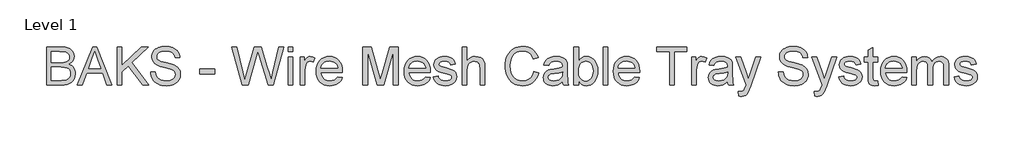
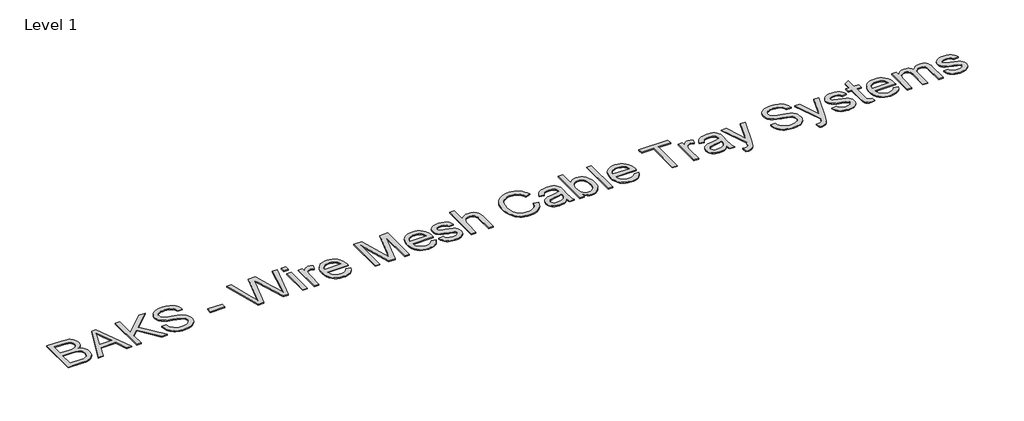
# One storey, part 32 of 32: 1 proxy.
"""IFC4 building model written with IfcOpenShell, lengths in millimetres."""

from ifc_helpers import new_model, si_unit, origin, origin_with_axes, place, context, project, spatial, polyline, outline, extrude, element, save

model = new_model("IFC4")

# Units and contexts
model_context = context("Model", 3, world=origin())
ifc_project = project(units=[si_unit("LENGTHUNIT", "METRE", prefix="MILLI")], contexts=[model_context])

# Site, building, storey
site = spatial("IfcSite", under=ifc_project)
building = spatial("IfcBuilding", under=site)
storey = spatial("IfcBuildingStorey", under=building, Name="Level 1", Elevation=0.0)

# Proxy
placement = place(None, origin())
element("IfcBuildingElementProxy", 1, Name="600mm Arial", ObjectType="600mm Arial", at=placement, inside=storey, context=model_context, shape_type="SweptSolid", body=[
    extrude(outline(polyline([(1866.9285506, 74450.7318965), (1866.9285506, 75053.4697574), (2096.928374, 75053.4697574), (2160.1856831, 75049.0367793), (2209.5738409, 75035.7378452), (2229.6510008, 75025.6808712), (2247.4288982, 75013.2418612), (2262.9075332, 74998.4208153), (2276.0869057, 74981.2177335), (2294.1315175, 74943.5466172), (2300.1463882, 74904.1096673), (2295.0880107, 74867.8181085), (2279.9128784, 74833.6970535), (2254.5106267, 74803.8434295), (2218.7708908, 74780.3541642), (2241.5105967, 74770.6604736), (2261.4635964, 74758.0605152), (2278.62989, 74742.5542891), (2293.0094775, 74724.1417953), (2304.3724326, 74703.3840537), (2312.4888291, 74680.8420845), (2317.358667, 74656.5158875), (2318.9819463, 74630.4054629), (2314.5489683, 74588.374945), (2301.2500341, 74549.3978476), (2281.4028005, 74516.2516798), (2257.3249239, 74491.7139507), (2227.839182, 74473.9452504), (2191.7683524, 74461.1061687), (2147.9352127, 74453.3254645), (2095.1625404, 74450.7318965), (1866.9285506, 74450.7318965)]), holes=[polyline([(1942.2707832, 74808.6075014), (2079.8586494, 74808.6075014), (2127.9776144, 74810.2261822), (2160.2040772, 74815.0822245), (2188.3286557, 74826.247443), (2208.5437714, 74842.9676797), (2220.7390595, 74864.9854171), (2224.8041555, 74892.0431379), (2221.014971, 74918.3099123), (2209.6474173, 74941.1921724), (2191.2165294, 74959.0528433), (2166.2373419, 74970.2548501), (2127.904038, 74976.1593561), (2069.4108008, 74978.1275248), (1942.2707832, 74978.1275248), (1942.2707832, 74808.6075014)]), polyline([(1942.2707832, 74526.0741291), (2096.7812212, 74526.0741291), (2152.6992845, 74529.017185), (2178.6533592, 74535.5470905), (2200.0089091, 74545.424722), (2217.3729392, 74559.5697847), (2231.3524551, 74578.9019836), (2240.567899, 74602.5567959), (2243.6397137, 74629.6696989), (2240.0344701, 74661.1603977), (2229.2187395, 74688.2365126), (2210.327999, 74709.4081214), (2182.4977261, 74723.1853021), (2143.0791703, 74730.7452771), (2089.4235813, 74733.2652688), (1942.2707832, 74733.2652688), (1942.2707832, 74526.0741291)])]), origin_with_axes(), (0.0, 0.0, 1.0), 15.0),
    extrude(outline(polyline([(2352.3856315, 74450.7318965), (2592.9804563, 75053.4697574), (2657.1390763, 75053.4697574), (2897.7339011, 74450.7318965), (2818.1242374, 74450.7318965), (2749.1095751, 74639.087478), (2500.8628047, 74639.087478), (2431.9952952, 74450.7318965), (2352.3856315, 74450.7318965)]), holes=[polyline([(2528.5275308, 74714.4297106), (2721.5920018, 74714.4297106), (2667.2926193, 74862.6125783), (2625.0597663, 74978.1275248), (2587.5358028, 74875.5620245), (2528.5275308, 74714.4297106)])]), origin_with_axes(), (0.0, 0.0, 1.0), 15.0),
    extrude(outline(polyline([(2978.2264817, 74450.7318965), (2978.2264817, 75053.4697574), (3053.5687143, 75053.4697574), (3053.5687143, 74758.4283972), (3362.5895902, 75053.4697574), (3467.9509936, 75053.4697574), (3208.5206106, 74805.6644454), (3477.3687727, 74450.7318965), (3385.2511211, 74450.7318965), (3155.1041449, 74754.7495773), (3053.5687143, 74657.9230362), (3053.5687143, 74450.7318965), (2978.2264817, 74450.7318965)])), origin_with_axes(), (0.0, 0.0, 1.0), 15.0),
    extrude(outline(polyline([(3505.62211, 74657.9230362), (3580.9643426, 74657.9230362), (3589.6095695, 74616.1132474), (3605.2445542, 74582.5072271), (3629.6351305, 74555.8357825), (3664.5471319, 74534.8297206), (3707.2214433, 74521.1996926), (3754.8989499, 74516.65635), (3796.8742855, 74520.0960467), (3833.6256969, 74530.4151366), (3863.4057444, 74546.7490972), (3884.4669886, 74568.2334057), (3896.9933705, 74592.8998935), (3901.1688312, 74618.7803919), (3898.0418342, 74643.9987026), (3888.6608433, 74665.7957109), (3869.604556, 74684.3921457), (3837.4516696, 74700.0087364), (3727.7492586, 74728.7771084), (3655.7363581, 74747.8150017), (3609.6591382, 74765.9331899), (3572.1535688, 74791.2802594), (3545.5740946, 74821.998406), (3529.7367747, 74857.4254421), (3524.4576681, 74896.8991802), (3526.0901445, 74919.3353834), (3530.9875735, 74941.0266255), (3539.1499553, 74961.9729066), (3550.5772898, 74982.1742267), (3565.1408182, 75000.8074498), (3582.711782, 75017.0494398), (3603.2901811, 75030.900197), (3626.8760156, 75042.3597211), (3679.8878111, 75057.7555826), (3738.5649893, 75062.8875364), (3802.1349981, 75057.5164593), (3857.7587557, 75041.4032279), (3882.0941497, 75029.4010778), (3903.4496995, 75014.8789361), (3921.8254052, 74997.8368026), (3937.2212667, 74978.2746776), (3949.5177224, 74956.7627779), (3958.5952106, 74933.8713207), (3964.4537314, 74909.6003061), (3967.0932847, 74883.949734), (3891.7510521, 74883.949734), (3886.7110688, 74907.9908224), (3877.9186891, 74928.9049138), (3865.373913, 74946.6920083), (3849.0767406, 74961.3521058), (3828.7236693, 74972.8116299), (3804.0111962, 74980.9970043), (3774.9393216, 74985.908229), (3741.5080453, 74987.5453038), (3707.0099112, 74985.9266231), (3677.5333663, 74981.0705807), (3653.0784107, 74972.9771768), (3633.6450443, 74961.6464114), (3618.837794, 74948.0255805), (3608.2611866, 74933.0619803), (3601.9152222, 74916.7556109), (3599.7999007, 74899.1064722), (3601.2990198, 74883.9221428), (3605.7963772, 74870.1541592), (3613.2919729, 74857.8025212), (3623.7858068, 74846.8672289), (3640.3037084, 74836.5113507), (3666.3129654, 74826.045108), (3746.805546, 74804.7815286), (3829.8733005, 74784.5848071), (3880.125981, 74766.9632595), (3923.076204, 74739.6296273), (3939.6814775, 74723.5623811), (3953.0401925, 74705.8948483), (3963.3086987, 74686.7189993), (3970.643346, 74666.1268046), (3976.5110638, 74620.6933782), (3974.8234051, 74597.1259379), (3969.7604292, 74574.2482764), (3961.3221359, 74552.0603935), (3949.5085253, 74530.5622894), (3934.5265311, 74510.5862971), (3916.5830868, 74492.9647495), (3895.6781924, 74477.6976467), (3871.811848, 74464.7849887), (3845.6784307, 74454.5164825), (3817.972318, 74447.1818352), (3757.8420058, 74441.3141174), (3719.3017683, 74442.89601), (3684.0264835, 74447.6416877), (3652.0161514, 74455.5511506), (3623.270772, 74466.6243987), (3597.6156014, 74480.879826), (3574.8758955, 74498.3358266), (3555.0516545, 74518.9924007), (3538.1428783, 74542.8495481), (3524.5220475, 74569.1347166), (3514.5616424, 74597.0753542), (3508.2616633, 74626.6714607), (3505.62211, 74657.9230362)])), origin_with_axes(), (0.0, 0.0, 1.0), 15.0),
    extrude(outline(polyline([(4277.8799942, 74629.6696989), (4277.8799942, 74705.0119315), (4513.3244711, 74705.0119315), (4513.3244711, 74629.6696989), (4277.8799942, 74629.6696989)])), origin_with_axes(), (0.0, 0.0, 1.0), 15.0),
    extrude(outline(polyline([(4950.8097398, 74450.7318965), (4786.4400644, 75053.4697574), (4864.1367417, 75053.4697574), (4959.4917549, 74657.334425), (4988.9223145, 74535.0504498), (5020.4130133, 74643.2077563), (5139.9010853, 75053.4697574), (5251.8843647, 75053.4697574), (5338.7045155, 74756.0739525), (5375.8973852, 74645.7093539), (5403.3045939, 74535.0504498), (5431.8522367, 74653.8027578), (5528.0901666, 75053.4697574), (5605.786844, 75053.4697574), (5441.2700158, 74450.7318965), (5360.7774352, 74450.7318965), (5216.2733875, 74915.7347384), (5196.1134542, 74980.6291223), (5173.4519233, 74902.4909865), (5041.750169, 74450.7318965), (4950.8097398, 74450.7318965)])), origin_with_axes(), (0.0, 0.0, 1.0), 15.0),
    extrude(outline(polyline([(5671.7112976, 74978.1275248), (5671.7112976, 75053.4697574), (5747.0535302, 75053.4697574), (5747.0535302, 74978.1275248), (5671.7112976, 74978.1275248)])), origin_with_axes(), (0.0, 0.0, 1.0), 15.0),
    extrude(outline(polyline([(5671.7112976, 74450.7318965), (5671.7112976, 74893.3675131), (5747.0535302, 74893.3675131), (5747.0535302, 74450.7318965), (5671.7112976, 74450.7318965)])), origin_with_axes(), (0.0, 0.0, 1.0), 15.0),
    extrude(outline(polyline([(5860.0668791, 74450.7318965), (5860.0668791, 74893.3675131), (5925.9913326, 74893.3675131), (5925.9913326, 74827.8845179), (5950.3451207, 74865.8499398), (5972.7859224, 74888.2171651), (5995.3003005, 74899.1432604), (6019.8748178, 74902.7852921), (6057.3987813, 74896.9727566), (6095.511356, 74879.5351501), (6070.3482275, 74811.9920157), (6043.8607239, 74823.5802986), (6017.3732202, 74827.4430595), (5994.8772362, 74823.7274514), (5974.7724852, 74812.5806269), (5958.5304951, 74794.8487148), (5947.6227939, 74771.3778435), (5938.4625323, 74729.2921432), (5935.4091117, 74683.3804702), (5935.4091117, 74450.7318965), (5860.0668791, 74450.7318965)])), origin_with_axes(), (0.0, 0.0, 1.0), 15.0),
    extrude(outline(polyline([(6452.5040441, 74582.5808035), (6526.3747487, 74573.1630245), (6515.0485818, 74543.576115), (6499.7584864, 74517.5024786), (6480.5044625, 74494.9421152), (6457.2865101, 74475.8950249), (6430.3437524, 74460.7658779), (6399.9153129, 74449.9593443), (6366.0011915, 74443.4754241), (6328.6013881, 74441.3141174), (6281.8527836, 74445.0435211), (6240.1993447, 74456.2317323), (6203.6410714, 74474.8787509), (6172.1779638, 74500.984577), (6146.8768796, 74533.8226436), (6128.8046766, 74572.6663838), (6117.9613548, 74617.5157975), (6114.3469141, 74668.3708848), (6117.998143, 74720.950419), (6128.9518294, 74767.2943533), (6147.2079734, 74807.4026878), (6172.766575, 74841.2754226), (6204.1469092, 74868.1859905), (6239.8682509, 74887.4078247), (6279.9306002, 74898.9409253), (6324.333957, 74902.7852921), (6367.3071726, 74898.9501223), (6406.1693068, 74887.4446129), (6440.9203598, 74868.2687639), (6471.5603315, 74841.4225754), (6496.5717086, 74807.623417), (6514.436978, 74767.5886589), (6525.1561396, 74721.318301), (6528.7291935, 74668.8123432), (6528.2877351, 74648.5052571), (6189.6891468, 74648.5052571), (6194.0531469, 74618.440101), (6202.7305635, 74592.1089472), (6215.7213964, 74569.5117957), (6233.0256458, 74550.6486464), (6253.6868183, 74535.7770167), (6276.7484209, 74525.1544241), (6302.2104535, 74518.7808685), (6330.0729161, 74516.65635), (6370.1720536, 74520.5926874), (6403.9436208, 74532.4016994), (6431.3876176, 74552.8191501), (6452.5040441, 74582.5808035)]), holes=[polyline([(6189.6891468, 74723.8474897), (6453.3869609, 74723.8474897), (6443.1966296, 74763.6523216), (6434.4318411, 74779.3057005), (6423.2206373, 74792.126388), (6402.6744279, 74807.5774318), (6379.2955271, 74818.6138916), (6353.0839349, 74825.2357676), (6324.0396514, 74827.4430595), (6297.5475492, 74825.6818245), (6273.253542, 74820.3981193), (6251.1576296, 74811.5919441), (6231.2598122, 74799.2632987), (6214.5625682, 74783.9824003), (6202.0683759, 74766.319466), (6193.7772354, 74746.2744958), (6189.6891468, 74723.8474897)])]), origin_with_axes(), (0.0, 0.0, 1.0), 15.0),
    extrude(outline(polyline([(6848.9336821, 74450.7318965), (6848.9336821, 75053.4697574), (6978.5752972, 75053.4697574), (7101.889342, 74628.6396293), (7126.7581649, 74539.9064921), (7153.6871269, 74635.9972692), (7274.9410325, 75053.4697574), (7404.5826476, 75053.4697574), (7404.5826476, 74450.7318965), (7329.240415, 74450.7318965), (7329.240415, 74978.1275248), (7177.8201858, 74450.7318965), (7075.6961439, 74450.7318965), (6924.2759147, 74978.1275248), (6924.2759147, 74450.7318965), (6848.9336821, 74450.7318965)])), origin_with_axes(), (0.0, 0.0, 1.0), 15.0),
    extrude(outline(polyline([(7836.9175684, 74582.5808035), (7910.788273, 74573.1630245), (7899.4621061, 74543.576115), (7884.1720106, 74517.5024786), (7864.9179867, 74494.9421152), (7841.7000343, 74475.8950249), (7814.7572767, 74460.7658779), (7784.3288372, 74449.9593443), (7750.4147157, 74443.4754241), (7713.0149124, 74441.3141174), (7666.2663079, 74445.0435211), (7624.6128689, 74456.2317323), (7588.0545957, 74474.8787509), (7556.591488, 74500.984577), (7531.2904038, 74533.8226436), (7513.2182008, 74572.6663838), (7502.374879, 74617.5157975), (7498.7604384, 74668.3708848), (7502.4116672, 74720.950419), (7513.3653536, 74767.2943533), (7531.6214976, 74807.4026878), (7557.1800992, 74841.2754226), (7588.5604334, 74868.1859905), (7624.2817752, 74887.4078247), (7664.3441244, 74898.9409253), (7708.7474812, 74902.7852921), (7751.7206968, 74898.9501223), (7790.5828311, 74887.4446129), (7825.333884, 74868.2687639), (7855.9738557, 74841.4225754), (7880.9852329, 74807.623417), (7898.8505023, 74767.5886589), (7909.5696639, 74721.318301), (7913.1427178, 74668.8123432), (7912.7012594, 74648.5052571), (7574.102671, 74648.5052571), (7578.4666712, 74618.440101), (7587.1440877, 74592.1089472), (7600.1349207, 74569.5117957), (7617.43917, 74550.6486464), (7638.1003426, 74535.7770167), (7661.1619452, 74525.1544241), (7686.6239778, 74518.7808685), (7714.4864404, 74516.65635), (7754.5855778, 74520.5926874), (7788.357145, 74532.4016994), (7815.8011418, 74552.8191501), (7836.9175684, 74582.5808035)]), holes=[polyline([(7574.102671, 74723.8474897), (7837.8004852, 74723.8474897), (7827.6101539, 74763.6523216), (7818.8453654, 74779.3057005), (7807.6341615, 74792.126388), (7787.0879521, 74807.5774318), (7763.7090513, 74818.6138916), (7737.4974592, 74825.2357676), (7708.4531756, 74827.4430595), (7681.9610735, 74825.6818245), (7657.6670662, 74820.3981193), (7635.5711539, 74811.5919441), (7615.6733365, 74799.2632987), (7598.9760924, 74783.9824003), (7586.4819001, 74766.319466), (7578.1907597, 74746.2744958), (7574.102671, 74723.8474897)])]), origin_with_axes(), (0.0, 0.0, 1.0), 15.0),
    extrude(outline(polyline([(7960.2316131, 74582.5808035), (8035.5738458, 74591.9985826), (8040.1263855, 74574.8184934), (8047.4564342, 74559.7721198), (8057.563992, 74546.8594618), (8070.4490589, 74536.0805194), (8086.148423, 74527.5824453), (8104.6988727, 74521.5123923), (8150.3530283, 74516.65635), (8195.4553609, 74521.1077221), (8212.9849379, 74526.6719373), (8227.1667888, 74534.4618386), (8245.9287706, 74553.8124315), (8250.619266, 74564.6465563), (8252.1827645, 74576.2532332), (8250.610069, 74586.4251704), (8245.8919824, 74595.4566734), (8227.0196361, 74610.0983768), (8198.803087, 74619.6633087), (8149.4701115, 74631.5826853), (8080.7129666, 74651.4667071), (8036.0153042, 74668.4444612), (8007.3021144, 74686.9673197), (7986.4983876, 74711.4866547), (7973.8616411, 74740.4389677), (7969.6493922, 74772.2607603), (7973.0339066, 74801.4521966), (7983.1874496, 74828.3995527), (7999.1903164, 74852.0359709), (8020.122802, 74871.2945934), (8040.9265288, 74883.4163051), (8068.0210377, 74893.5882423), (8099.3461896, 74900.4860297), (8132.8418453, 74902.7852921), (8181.8805152, 74899.0880781), (8224.5180385, 74887.9964359), (8258.8046404, 74870.5956176), (8282.7905465, 74847.9708749), (8298.6830487, 74818.4483448), (8308.689439, 74780.3541642), (8233.3472064, 74770.9363851), (8223.8374568, 74794.6463797), (8205.0202927, 74812.5070505), (8176.7117732, 74823.7090573), (8138.7279572, 74827.4430595), (8095.4650346, 74823.8746042), (8066.6230862, 74813.1692381), (8050.3994902, 74797.7181943), (8044.9916248, 74779.9127058), (8047.235705, 74768.3244229), (8053.9679455, 74757.9869388), (8065.482652, 74748.7531008), (8082.07413, 74741.3586727), (8146.9685139, 74725.3190177), (8257.5538417, 74689.8551933), (8286.7636721, 74672.8958334), (8308.9101682, 74649.6824795), (8322.8712899, 74620.1415553), (8327.5249971, 74584.1994843), (8322.0619495, 74547.0434028), (8305.6728066, 74512.0946133), (8278.9829679, 74482.0938366), (8242.6178326, 74459.7817936), (8198.6927224, 74445.9310364), (8149.3229587, 74441.3141174), (8108.7731658, 74443.5398035), (8073.3553267, 74450.2168617), (8043.0694414, 74461.345292), (8017.91551, 74476.9250945), (7997.3693006, 74496.8826928), (7980.9065813, 74521.1445103), (7968.5273521, 74549.7105473), (7960.2316131, 74582.5808035)])), origin_with_axes(), (0.0, 0.0, 1.0), 15.0),
    extrude(outline(polyline([(8412.2850088, 74450.7318965), (8412.2850088, 75053.4697574), (8487.6272414, 75053.4697574), (8487.6272414, 74831.8576435), (8515.3011645, 74862.8884898), (8546.3779961, 74885.05338), (8580.8577361, 74898.3523141), (8618.7403845, 74902.7852921), (8664.2473873, 74897.9476439), (8703.3532434, 74883.4346992), (8734.1449664, 74860.3868922), (8754.7095699, 74829.9446571), (8766.2978528, 74788.1164742), (8770.1606137, 74730.910824), (8770.1606137, 74450.7318965), (8694.8183811, 74450.7318965), (8694.8183811, 74723.1117257), (8693.319262, 74748.5507657), (8688.8219046, 74770.2741975), (8681.3263089, 74788.2820211), (8670.832475, 74802.5742367), (8657.5887232, 74813.4543467), (8641.8433738, 74821.2258538), (8623.5964269, 74825.8887581), (8602.8478823, 74827.4430595), (8571.0076956, 74823.2492048), (8541.1172835, 74810.6676406), (8516.3588253, 74790.9123774), (8499.9145001, 74765.1974259), (8490.6990561, 74731.0211886), (8487.6272414, 74685.8820678), (8487.6272414, 74450.7318965), (8412.2850088, 74450.7318965)])), origin_with_axes(), (0.0, 0.0, 1.0), 15.0),
    extrude(outline(polyline([(9542.418498, 74664.9863705), (9617.7607306, 74645.5622011), (9602.8523128, 74598.7078305), (9582.9958821, 74557.767163), (9558.1914385, 74522.7401985), (9528.4389822, 74493.6269371), (9494.4098976, 74470.7400785), (9456.7755695, 74454.3923223), (9415.5359979, 74444.5836686), (9370.6911827, 74441.3141174), (9324.74732, 74443.7881238), (9283.3008147, 74451.2101431), (9246.3516668, 74463.5801752), (9213.8998763, 74480.8982201), (9185.4993863, 74502.9067604), (9160.7041398, 74529.3482788), (9139.5141369, 74560.2227753), (9121.9293775, 74595.5302498), (9108.1200071, 74633.743992), (9098.2561711, 74673.3372918), (9092.3378695, 74714.310149), (9090.3651023, 74756.6625637), (9092.5953869, 74802.1051871), (9099.2862407, 74844.5495723), (9110.4376637, 74883.9957192), (9126.0496559, 74920.4436279), (9145.7727293, 74953.2908916), (9169.2573962, 74981.9351034), (9196.5036565, 75006.3762635), (9227.5115101, 75026.6143717), (9261.227895, 75042.4838813), (9296.5997488, 75053.8192453), (9333.6270716, 75060.6204637), (9372.3098634, 75062.8875364), (9415.4026406, 75059.9536775), (9454.9177655, 75051.1521008), (9490.8552379, 75036.4828062), (9523.2150579, 75015.9457939), (9551.4637966, 74990.0836896), (9575.0680251, 74959.4391194), (9594.0277434, 74924.0120833), (9608.3429515, 74883.8025812), (9533.0007189, 74865.8499398), (9521.1365246, 74895.478236), (9506.8810973, 74920.7931158), (9490.234437, 74941.7945792), (9471.1965437, 74958.4826262), (9449.6570529, 74971.1975477), (9425.5055999, 74980.2796344), (9398.7421848, 74985.7288865), (9369.3668075, 74987.5453038), (9335.5676492, 74985.5311499), (9304.6563645, 74979.4886881), (9276.6329535, 74969.4179185), (9251.4974162, 74955.3188411), (9229.5670508, 74937.8260522), (9211.1591554, 74917.5741484), (9196.2737302, 74894.5631296), (9184.9107751, 74868.7929958), (9170.508195, 74813.6474847), (9165.7073349, 74756.8097165), (9171.3911118, 74687.206443), (9178.4958328, 74655.9364734), (9188.4424422, 74627.0209486), (9201.3918885, 74601.0346841), (9217.5051199, 74578.5524957), (9236.7821364, 74559.5743833), (9259.2229381, 74544.1003468), (9283.7376746, 74532.0935982), (9309.2364954, 74523.5173492), (9335.7194005, 74518.3715998), (9363.18639, 74516.65635), (9395.9416831, 74518.9924007), (9426.075817, 74526.0005527), (9453.5887917, 74537.680806), (9478.4806072, 74554.0331607), (9500.1626523, 74574.9840403), (9518.0463158, 74600.4598685), (9532.1315977, 74630.4606452), (9542.418498, 74664.9863705)])), origin_with_axes(), (0.0, 0.0, 1.0), 15.0),
    extrude(outline(polyline([(9994.4718937, 74507.2385709), (9958.4746405, 74476.3732715), (9921.4105294, 74456.17655), (9882.433432, 74445.0297255), (9840.6972197, 74441.3141174), (9807.1509803, 74443.5490005), (9777.7342162, 74450.2536499), (9752.4469276, 74461.4280655), (9731.2891143, 74477.0722473), (9714.5826732, 74496.192914), (9702.649501, 74517.7967842), (9695.4895977, 74541.8838578), (9693.1029632, 74568.4541349), (9696.7082068, 74599.6873163), (9707.5239374, 74628.0510181), (9724.2073859, 74652.3312298), (9745.4157829, 74671.3139408), (9770.3397881, 74685.6613386), (9798.1700611, 74696.0356109), (9863.3587506, 74707.3663763), (9940.3932404, 74719.285753), (9994.0304353, 74733.2652688), (9994.4718937, 74750.0406877), (9989.2847575, 74783.6651021), (9982.8008374, 74796.1179076), (9973.7233492, 74805.6644454), (9958.0331821, 74815.1925891), (9938.9217124, 74821.998406), (9890.4348654, 74827.4430595), (9845.553262, 74823.8194219), (9814.209716, 74812.9485089), (9792.8357721, 74792.8437579), (9777.8629749, 74761.518606), (9702.5207423, 74770.9363851), (9715.5989472, 74812.1391685), (9735.1150871, 74844.5127841), (9762.8901777, 74869.2712424), (9800.745235, 74887.6285539), (9847.0431841, 74898.9961076), (9900.1469501, 74902.7852921), (9951.0802123, 74899.437566), (9991.4552613, 74889.3943875), (10021.8974964, 74874.2928316), (10043.032317, 74855.7699732), (10057.0486211, 74832.869319), (10066.1353063, 74804.6343758), (10069.8141263, 74738.7099223), (10069.8141263, 74644.9735899), (10073.640099, 74514.081176), (10079.3054818, 74481.7259546), (10088.6496844, 74450.7318965), (10013.3074518, 74450.7318965), (10001.2409224, 74476.9250945), (9994.4718937, 74507.2385709)]), holes=[polyline([(9994.4718937, 74657.9230362), (9943.8513311, 74645.3782601), (9872.9236825, 74634.8200469), (9808.1028749, 74622.6063646), (9791.2354854, 74614.2554433), (9778.7458917, 74602.7407369), (9771.0203698, 74588.9451621), (9768.4451958, 74573.7516357), (9774.0553963, 74551.3476222), (9790.8859975, 74532.9903106), (9818.5691177, 74520.7398402), (9856.7368747, 74516.65635), (9897.2038942, 74521.1629044), (9932.9620241, 74534.6825678), (9961.9511253, 74554.6033778), (9982.1110586, 74578.3133724), (9991.0505911, 74602.7407369), (9994.0304353, 74636.5858804), (9994.4718937, 74657.9230362)])]), origin_with_axes(), (0.0, 0.0, 1.0), 15.0),
    extrude(outline(polyline([(10248.7519287, 74450.7318965), (10173.4096961, 74450.7318965), (10173.4096961, 75053.4697574), (10248.7519287, 75053.4697574), (10248.7519287, 74829.9446571), (10273.5287811, 74861.8124349), (10301.5062069, 74884.5751334), (10332.6842059, 74898.2327525), (10367.0627784, 74902.7852921), (10405.8743289, 74898.6834079), (10442.5521638, 74886.3777552), (10474.9993558, 74866.6408861), (10501.1189774, 74840.245353), (10521.5916105, 74807.4486731), (10537.0978366, 74768.5083639), (10546.8651035, 74725.0431062), (10550.1208592, 74678.6715807), (10546.7501404, 74625.1631445), (10536.6379841, 74578.0926432), (10519.7843902, 74537.4600768), (10496.1893587, 74503.2654454), (10467.8670436, 74476.1617394), (10436.8315988, 74456.8019494), (10403.0830242, 74445.1860754), (10366.62132, 74441.3141174), (10331.1115104, 74446.3081155), (10299.6300087, 74461.2901097), (10272.1768148, 74486.2601002), (10248.7519287, 74521.2180867), (10248.7519287, 74450.7318965)]), holes=[polyline([(10248.7519287, 74675.1399135), (10253.9022767, 74612.3056688), (10260.3402116, 74588.5037037), (10269.3533205, 74569.7785101), (10287.6094645, 74546.5375651), (10308.8270586, 74529.93689), (10333.0061027, 74519.976485), (10360.1465969, 74516.65635), (10382.6793691, 74519.1027653), (10403.6302487, 74526.4420111), (10422.9992358, 74538.6740874), (10440.7863302, 74555.7989943), (10455.6579599, 74577.7707465), (10466.2805525, 74604.5433587), (10472.6541081, 74636.1168309), (10474.7786266, 74672.4911632), (10472.74148, 74709.5552742), (10466.6300404, 74741.4322491), (10456.4443076, 74768.1220878), (10442.1842818, 74789.6247904), (10425.0363823, 74806.1702832), (10406.1870286, 74817.9884923), (10385.6362206, 74825.0794177), (10363.3839584, 74827.4430595), (10340.8511862, 74824.9966443), (10319.9003066, 74817.6573985), (10300.5313196, 74805.4253221), (10282.7442251, 74788.3004152), (10267.8725954, 74766.5493923), (10257.2500028, 74740.4389677), (10250.8764473, 74709.9691414), (10248.7519287, 74675.1399135)])]), origin_with_axes(), (0.0, 0.0, 1.0), 15.0),
    extrude(outline(polyline([(10634.8808709, 74450.7318965), (10634.8808709, 75053.4697574), (10710.2231035, 75053.4697574), (10710.2231035, 74450.7318965), (10634.8808709, 74450.7318965)])), origin_with_axes(), (0.0, 0.0, 1.0), 15.0),
    extrude(outline(polyline([(11133.1402451, 74582.5808035), (11207.0109498, 74573.1630245), (11195.6847829, 74543.576115), (11180.3946874, 74517.5024786), (11161.1406635, 74494.9421152), (11137.9227111, 74475.8950249), (11110.9799535, 74460.7658779), (11080.5515139, 74449.9593443), (11046.6373925, 74443.4754241), (11009.2375892, 74441.3141174), (10962.4889846, 74445.0435211), (10920.8355457, 74456.2317323), (10884.2772725, 74474.8787509), (10852.8141648, 74500.984577), (10827.5130806, 74533.8226436), (10809.4408776, 74572.6663838), (10798.5975558, 74617.5157975), (10794.9831152, 74668.3708848), (10798.634344, 74720.950419), (10809.5880304, 74767.2943533), (10827.8441744, 74807.4026878), (10853.402776, 74841.2754226), (10884.7831102, 74868.1859905), (10920.5044519, 74887.4078247), (10960.5668012, 74898.9409253), (11004.970158, 74902.7852921), (11047.9433736, 74898.9501223), (11086.8055079, 74887.4446129), (11121.5565608, 74868.2687639), (11152.1965325, 74841.4225754), (11177.2079096, 74807.623417), (11195.073179, 74767.5886589), (11205.7923407, 74721.318301), (11209.3653946, 74668.8123432), (11208.9239362, 74648.5052571), (10870.3253478, 74648.5052571), (10874.689348, 74618.440101), (10883.3667645, 74592.1089472), (10896.3575975, 74569.5117957), (10913.6618468, 74550.6486464), (10934.3230194, 74535.7770167), (10957.384622, 74525.1544241), (10982.8466545, 74518.7808685), (11010.7091172, 74516.65635), (11050.8082546, 74520.5926874), (11084.5798218, 74532.4016994), (11112.0238186, 74552.8191501), (11133.1402451, 74582.5808035)]), holes=[polyline([(10870.3253478, 74723.8474897), (11134.0231619, 74723.8474897), (11123.8328307, 74763.6523216), (11115.0680421, 74779.3057005), (11103.8568383, 74792.126388), (11083.3106289, 74807.5774318), (11059.9317281, 74818.6138916), (11033.720136, 74825.2357676), (11004.6758524, 74827.4430595), (10978.1837503, 74825.6818245), (10953.889743, 74820.3981193), (10931.7938307, 74811.5919441), (10911.8960133, 74799.2632987), (10895.1987692, 74783.9824003), (10882.7045769, 74766.319466), (10874.4134365, 74746.2744958), (10870.3253478, 74723.8474897)])]), origin_with_axes(), (0.0, 0.0, 1.0), 15.0),
    extrude(outline(polyline([(11680.2543484, 74450.7318965), (11680.2543484, 74978.1275248), (11482.4809878, 74978.1275248), (11482.4809878, 75053.4697574), (11953.3699416, 75053.4697574), (11953.3699416, 74978.1275248), (11755.596581, 74978.1275248), (11755.596581, 74450.7318965), (11680.2543484, 74450.7318965)])), origin_with_axes(), (0.0, 0.0, 1.0), 15.0),
    extrude(outline(polyline([(12028.7121742, 74450.7318965), (12028.7121742, 74893.3675131), (12094.6366277, 74893.3675131), (12094.6366277, 74827.8845179), (12118.9904158, 74865.8499398), (12141.4312175, 74888.2171651), (12163.9455956, 74899.1432604), (12188.5201129, 74902.7852921), (12226.0440764, 74896.9727566), (12264.1566511, 74879.5351501), (12238.9935227, 74811.9920157), (12212.506019, 74823.5802986), (12186.0185153, 74827.4430595), (12163.5225313, 74823.7274514), (12143.4177803, 74812.5806269), (12127.1757902, 74794.8487148), (12116.2680891, 74771.3778435), (12107.1078274, 74729.2921432), (12104.0544068, 74683.3804702), (12104.0544068, 74450.7318965), (12028.7121742, 74450.7318965)])), origin_with_axes(), (0.0, 0.0, 1.0), 15.0),
    extrude(outline(polyline([(12593.7789188, 74507.2385709), (12557.7816656, 74476.3732715), (12520.7175546, 74456.17655), (12481.7404572, 74445.0297255), (12440.0042448, 74441.3141174), (12406.4580054, 74443.5490005), (12377.0412413, 74450.2536499), (12351.7539527, 74461.4280655), (12330.5961395, 74477.0722473), (12313.8896983, 74496.192914), (12301.9565261, 74517.7967842), (12294.7966228, 74541.8838578), (12292.4099884, 74568.4541349), (12296.0152319, 74599.6873163), (12306.8309626, 74628.0510181), (12323.514411, 74652.3312298), (12344.7228081, 74671.3139408), (12369.6468132, 74685.6613386), (12397.4770862, 74696.0356109), (12462.6657757, 74707.3663763), (12539.7002655, 74719.285753), (12593.3374604, 74733.2652688), (12593.7789188, 74750.0406877), (12588.5917827, 74783.6651021), (12582.1078625, 74796.1179076), (12573.0303743, 74805.6644454), (12557.3402072, 74815.1925891), (12538.2287375, 74821.998406), (12489.7418906, 74827.4430595), (12444.8602872, 74823.8194219), (12413.5167412, 74812.9485089), (12392.1427972, 74792.8437579), (12377.17, 74761.518606), (12301.8277674, 74770.9363851), (12314.9059724, 74812.1391685), (12334.4221122, 74844.5127841), (12362.1972028, 74869.2712424), (12400.0522601, 74887.6285539), (12446.3502092, 74898.9961076), (12499.4539752, 74902.7852921), (12550.3872375, 74899.437566), (12590.7622864, 74889.3943875), (12621.2045215, 74874.2928316), (12642.3393422, 74855.7699732), (12656.3556462, 74832.869319), (12665.4423315, 74804.6343758), (12669.1211514, 74738.7099223), (12669.1211514, 74644.9735899), (12672.9471242, 74514.081176), (12678.6125069, 74481.7259546), (12687.9567096, 74450.7318965), (12612.614477, 74450.7318965), (12600.5479475, 74476.9250945), (12593.7789188, 74507.2385709)]), holes=[polyline([(12593.7789188, 74657.9230362), (12543.1583563, 74645.3782601), (12472.2307076, 74634.8200469), (12407.4099, 74622.6063646), (12390.5425106, 74614.2554433), (12378.0529168, 74602.7407369), (12370.3273949, 74588.9451621), (12367.752221, 74573.7516357), (12373.3624214, 74551.3476222), (12390.1930227, 74532.9903106), (12417.8761428, 74520.7398402), (12456.0438998, 74516.65635), (12496.5109193, 74521.1629044), (12532.2690492, 74534.6825678), (12561.2581504, 74554.6033778), (12581.4180838, 74578.3133724), (12590.3576162, 74602.7407369), (12593.3374604, 74636.5858804), (12593.7789188, 74657.9230362)])]), origin_with_axes(), (0.0, 0.0, 1.0), 15.0),
    extrude(outline(polyline([(12772.7167213, 74281.2118731), (12763.2989422, 74353.7582025), (12801.5586697, 74347.1363266), (12821.6818148, 74349.2148599), (12837.3167996, 74355.4504597), (12849.4936936, 74365.4016677), (12859.2425665, 74378.6270254), (12879.8439582, 74434.1036303), (12885.7300702, 74452.3505773), (12725.6278259, 74893.3675131), (12805.0903368, 74893.3675131), (12889.9975013, 74647.6223403), (12919.5752137, 74549.3242712), (12949.1529261, 74636.144422), (13036.4145354, 74893.3675131), (13115.2884352, 74893.3675131), (12961.2194556, 74440.136895), (12921.1938945, 74341.8388259), (12900.7028674, 74310.4584917), (12877.4895135, 74288.7166658), (12850.5237632, 74276.024737), (12818.775547, 74271.794094), (12796.9601447, 74274.1485388), (12772.7167213, 74281.2118731)])), origin_with_axes(), (0.0, 0.0, 1.0), 15.0),
    extrude(outline(polyline([(13394.2901403, 74657.9230362), (13469.6323729, 74657.9230362), (13478.2775998, 74616.1132474), (13493.9125846, 74582.5072271), (13518.3031609, 74555.8357825), (13553.2151622, 74534.8297206), (13595.8894737, 74521.1996926), (13643.5669802, 74516.65635), (13685.5423159, 74520.0960467), (13722.2937272, 74530.4151366), (13752.0737747, 74546.7490972), (13773.1350189, 74568.2334057), (13785.6614009, 74592.8998935), (13789.8368615, 74618.7803919), (13786.7098646, 74643.9987026), (13777.3288737, 74665.7957109), (13758.2725863, 74684.3921457), (13726.1197, 74700.0087364), (13616.417289, 74728.7771084), (13544.4043884, 74747.8150017), (13498.3271685, 74765.9331899), (13460.8215991, 74791.2802594), (13434.242125, 74821.998406), (13418.4048051, 74857.4254421), (13413.1256985, 74896.8991802), (13414.7581748, 74919.3353834), (13419.6556039, 74941.0266255), (13427.8179856, 74961.9729066), (13439.2453201, 74982.1742267), (13453.8088486, 75000.8074498), (13471.3798124, 75017.0494398), (13491.9582115, 75030.900197), (13515.5440459, 75042.3597211), (13568.5558414, 75057.7555826), (13627.2330197, 75062.8875364), (13690.8030284, 75057.5164593), (13746.4267861, 75041.4032279), (13770.7621801, 75029.4010778), (13792.1177299, 75014.8789361), (13810.4934355, 74997.8368026), (13825.889297, 74978.2746776), (13838.1857527, 74956.7627779), (13847.263241, 74933.8713207), (13853.1217617, 74909.6003061), (13855.7613151, 74883.949734), (13780.4190824, 74883.949734), (13775.3790991, 74907.9908224), (13766.5867194, 74928.9049138), (13754.0419434, 74946.6920083), (13737.744771, 74961.3521058), (13717.3916996, 74972.8116299), (13692.6792266, 74980.9970043), (13663.6073519, 74985.908229), (13630.1760756, 74987.5453038), (13595.6779415, 74985.9266231), (13566.2013967, 74981.0705807), (13541.746441, 74972.9771768), (13522.3130746, 74961.6464114), (13507.5058243, 74948.0255805), (13496.929217, 74933.0619803), (13490.5832525, 74916.7556109), (13488.4679311, 74899.1064722), (13489.9670502, 74883.9221428), (13494.4644076, 74870.1541592), (13501.9600032, 74857.8025212), (13512.4538372, 74846.8672289), (13528.9717387, 74836.5113507), (13554.9809958, 74826.045108), (13635.4735763, 74804.7815286), (13718.5413309, 74784.5848071), (13768.7940114, 74766.9632595), (13811.7442343, 74739.6296273), (13828.3495079, 74723.5623811), (13841.7082228, 74705.8948483), (13851.976729, 74686.7189993), (13859.3113763, 74666.1268046), (13865.1790941, 74620.6933782), (13863.4914355, 74597.1259379), (13858.4284595, 74574.2482764), (13849.9901663, 74552.0603935), (13838.1765557, 74530.5622894), (13823.1945614, 74510.5862971), (13805.2511171, 74492.9647495), (13784.3462227, 74477.6976467), (13760.4798783, 74464.7849887), (13734.3464611, 74454.5164825), (13706.6403483, 74447.1818352), (13646.5100362, 74441.3141174), (13607.9697987, 74442.89601), (13572.6945139, 74447.6416877), (13540.6841818, 74455.5511506), (13511.9388024, 74466.6243987), (13486.2836317, 74480.879826), (13463.5439259, 74498.3358266), (13443.7196849, 74518.9924007), (13426.8109087, 74542.8495481), (13413.1900778, 74569.1347166), (13403.2296728, 74597.0753542), (13396.9296936, 74626.6714607), (13394.2901403, 74657.9230362)])), origin_with_axes(), (0.0, 0.0, 1.0), 15.0),
    extrude(outline(polyline([(13968.774664, 74281.2118731), (13959.3568849, 74353.7582025), (13997.6166124, 74347.1363266), (14017.7397575, 74349.2148599), (14033.3747423, 74355.4504597), (14045.5516364, 74365.4016677), (14055.3005092, 74378.6270254), (14075.901901, 74434.1036303), (14081.7880129, 74452.3505773), (13921.6857686, 74893.3675131), (14001.1482795, 74893.3675131), (14086.055444, 74647.6223403), (14115.6331564, 74549.3242712), (14145.2108689, 74636.144422), (14232.4724781, 74893.3675131), (14311.3463779, 74893.3675131), (14157.2773983, 74440.136895), (14117.2518372, 74341.8388259), (14096.7608101, 74310.4584917), (14073.5474562, 74288.7166658), (14046.581706, 74276.024737), (14014.8334898, 74271.794094), (13993.0180875, 74274.1485388), (13968.774664, 74281.2118731)])), origin_with_axes(), (0.0, 0.0, 1.0), 15.0),
    extrude(outline(polyline([(14345.485827, 74582.5808035), (14420.8280596, 74591.9985826), (14425.3805993, 74574.8184934), (14432.7106481, 74559.7721198), (14442.8182059, 74546.8594618), (14455.7032728, 74536.0805194), (14471.4026369, 74527.5824453), (14489.9530865, 74521.5123923), (14535.6072421, 74516.65635), (14580.7095747, 74521.1077221), (14598.2391518, 74526.6719373), (14612.4210027, 74534.4618386), (14631.1829845, 74553.8124315), (14635.8734799, 74564.6465563), (14637.4369784, 74576.2532332), (14635.8642829, 74586.4251704), (14631.1461963, 74595.4566734), (14612.2738499, 74610.0983768), (14584.0573009, 74619.6633087), (14534.7243254, 74631.5826853), (14465.9671805, 74651.4667071), (14421.269518, 74668.4444612), (14392.5563283, 74686.9673197), (14371.7526015, 74711.4866547), (14359.115855, 74740.4389677), (14354.9036061, 74772.2607603), (14358.2881205, 74801.4521966), (14368.4416635, 74828.3995527), (14384.4445303, 74852.0359709), (14405.3770158, 74871.2945934), (14426.1807427, 74883.4163051), (14453.2752516, 74893.5882423), (14484.6004035, 74900.4860297), (14518.0960592, 74902.7852921), (14567.1347291, 74899.0880781), (14609.7722524, 74887.9964359), (14644.0588543, 74870.5956176), (14668.0447604, 74847.9708749), (14683.9372626, 74818.4483448), (14693.9436529, 74780.3541642), (14618.6014203, 74770.9363851), (14609.0916707, 74794.6463797), (14590.2745066, 74812.5070505), (14561.9659871, 74823.7090573), (14523.9821711, 74827.4430595), (14480.7192485, 74823.8746042), (14451.8773, 74813.1692381), (14435.6537041, 74797.7181943), (14430.2458387, 74779.9127058), (14432.4899189, 74768.3244229), (14439.2221594, 74757.9869388), (14450.7368659, 74748.7531008), (14467.3283438, 74741.3586727), (14532.2227278, 74725.3190177), (14642.8080555, 74689.8551933), (14672.017886, 74672.8958334), (14694.1643821, 74649.6824795), (14708.1255038, 74620.1415553), (14712.779211, 74584.1994843), (14707.3161634, 74547.0434028), (14690.9270205, 74512.0946133), (14664.2371818, 74482.0938366), (14627.8720465, 74459.7817936), (14583.9469363, 74445.9310364), (14534.5771726, 74441.3141174), (14494.0273796, 74443.5398035), (14458.6095406, 74450.2168617), (14428.3236553, 74461.345292), (14403.1697239, 74476.9250945), (14382.6235144, 74496.8826928), (14366.1607952, 74521.1445103), (14353.781566, 74549.7105473), (14345.485827, 74582.5808035)])), origin_with_axes(), (0.0, 0.0, 1.0), 15.0),
    extrude(outline(polyline([(14957.641467, 74513.5661412), (14967.0592461, 74448.5246045), (14910.6997244, 74441.3141174), (14874.5369243, 74444.4411144), (14847.5711741, 74453.8221052), (14828.5148867, 74468.2798676), (14816.0804753, 74486.6371792), (14809.2378702, 74518.1646662), (14806.9570018, 74572.1329549), (14806.9570018, 74818.0252805), (14750.4503273, 74818.0252805), (14750.4503273, 74893.3675131), (14806.9570018, 74893.3675131), (14806.9570018, 75000.9362085), (14882.2992344, 75045.2292007), (14882.2992344, 74893.3675131), (14957.641467, 74893.3675131), (14957.641467, 74818.0252805), (14882.2992344, 74818.0252805), (14882.2992344, 74574.3402469), (14886.2723599, 74535.4919082), (14899.1482298, 74521.7331215), (14910.0191427, 74517.9255429), (14924.826393, 74516.65635), (14957.641467, 74513.5661412)])), origin_with_axes(), (0.0, 0.0, 1.0), 15.0),
    extrude(outline(polyline([(15342.8874924, 74582.5808035), (15416.758197, 74573.1630245), (15405.4320301, 74543.576115), (15390.1419346, 74517.5024786), (15370.8879107, 74494.9421152), (15347.6699583, 74475.8950249), (15320.7272007, 74460.7658779), (15290.2987611, 74449.9593443), (15256.3846397, 74443.4754241), (15218.9848364, 74441.3141174), (15172.2362318, 74445.0435211), (15130.5827929, 74456.2317323), (15094.0245197, 74474.8787509), (15062.561412, 74500.984577), (15037.2603278, 74533.8226436), (15019.1881248, 74572.6663838), (15008.344803, 74617.5157975), (15004.7303624, 74668.3708848), (15008.3815912, 74720.950419), (15019.3352776, 74767.2943533), (15037.5914216, 74807.4026878), (15063.1500232, 74841.2754226), (15094.5303574, 74868.1859905), (15130.2516991, 74887.4078247), (15170.3140484, 74898.9409253), (15214.7174052, 74902.7852921), (15257.6906208, 74898.9501223), (15296.5527551, 74887.4446129), (15331.303808, 74868.2687639), (15361.9437797, 74841.4225754), (15386.9551569, 74807.623417), (15404.8204262, 74767.5886589), (15415.5395879, 74721.318301), (15419.1126418, 74668.8123432), (15418.6711834, 74648.5052571), (15080.072595, 74648.5052571), (15084.4365952, 74618.440101), (15093.1140117, 74592.1089472), (15106.1048447, 74569.5117957), (15123.409094, 74550.6486464), (15144.0702666, 74535.7770167), (15167.1318692, 74525.1544241), (15192.5939018, 74518.7808685), (15220.4563644, 74516.65635), (15260.5555018, 74520.5926874), (15294.327069, 74532.4016994), (15321.7710658, 74552.8191501), (15342.8874924, 74582.5808035)]), holes=[polyline([(15080.072595, 74723.8474897), (15343.7704091, 74723.8474897), (15333.5800779, 74763.6523216), (15324.8152893, 74779.3057005), (15313.6040855, 74792.126388), (15293.0578761, 74807.5774318), (15269.6789753, 74818.6138916), (15243.4673832, 74825.2357676), (15214.4230996, 74827.4430595), (15187.9309975, 74825.6818245), (15163.6369902, 74820.3981193), (15141.5410779, 74811.5919441), (15121.6432605, 74799.2632987), (15104.9460164, 74783.9824003), (15092.4518241, 74766.319466), (15084.1606837, 74746.2744958), (15080.072595, 74723.8474897)])]), origin_with_axes(), (0.0, 0.0, 1.0), 15.0),
    extrude(outline(polyline([(15494.4548744, 74450.7318965), (15494.4548744, 74893.3675131), (15569.797107, 74893.3675131), (15569.797107, 74820.526878), (15592.4586379, 74853.9857455), (15621.5948919, 74880.1973376), (15656.2125876, 74897.1383035), (15695.3184437, 74902.7852921), (15737.220203, 74897.0279389), (15755.0532827, 74889.8312474), (15770.8078291, 74879.7558792), (15795.8973812, 74852.1095473), (15812.3049182, 74815.2293773), (15839.7673091, 74853.53509), (15871.092461, 74880.8963134), (15906.2803739, 74897.3130475), (15945.3310477, 74902.7852921), (15975.4927727, 74900.5090223), (16001.9664808, 74893.6802128), (16024.7521719, 74882.2988635), (16043.849846, 74866.3649746), (16058.9468033, 74845.694605), (16069.7303443, 74820.1038137), (16076.2004689, 74789.5926008), (16078.3571771, 74754.1609661), (16078.3571771, 74450.7318965), (16003.0149445, 74450.7318965), (16003.0149445, 74721.7873505), (16001.267505, 74759.3664963), (15996.0251866, 74784.6951717), (15986.2027373, 74802.0408078), (15970.7149053, 74815.6708357), (15950.7940953, 74824.5000036), (15927.6727119, 74827.4430595), (15906.3217606, 74825.5576643), (15886.8562045, 74819.9014786), (15869.2760437, 74810.4745025), (15853.5812781, 74797.2767359), (15840.6732186, 74779.9219028), (15831.4531761, 74758.023727), (15825.9211505, 74731.5822086), (15824.077142, 74700.5973476), (15824.077142, 74450.7318965), (15748.7349094, 74450.7318965), (15748.7349094, 74730.17506), (15744.3755078, 74772.7757951), (15738.9262557, 74789.4960317), (15731.2973029, 74803.1628479), (15721.1851465, 74813.7854405), (15708.2862841, 74821.3730066), (15692.6007155, 74825.9255463), (15674.1284408, 74827.4430595), (15645.1025514, 74823.3963576), (15618.3575303, 74811.2562517), (15596.2846106, 74791.3170476), (15581.2750252, 74763.8730508), (15572.6665865, 74725.7972643), (15569.797107, 74673.9626911), (15569.797107, 74450.7318965), (15494.4548744, 74450.7318965)])), origin_with_axes(), (0.0, 0.0, 1.0), 15.0),
    extrude(outline(polyline([(16163.1171888, 74582.5808035), (16238.4594214, 74591.9985826), (16243.0119611, 74574.8184934), (16250.3420099, 74559.7721198), (16260.4495677, 74546.8594618), (16273.3346346, 74536.0805194), (16289.0339987, 74527.5824453), (16307.5844483, 74521.5123923), (16353.2386039, 74516.65635), (16398.3409365, 74521.1077221), (16415.8705136, 74526.6719373), (16430.0523645, 74534.4618386), (16448.8143463, 74553.8124315), (16453.5048417, 74564.6465563), (16455.0683402, 74576.2532332), (16453.4956446, 74586.4251704), (16448.7775581, 74595.4566734), (16429.9052117, 74610.0983768), (16401.6886627, 74619.6633087), (16352.3556871, 74631.5826853), (16283.5985422, 74651.4667071), (16238.9008798, 74668.4444612), (16210.1876901, 74686.9673197), (16189.3839633, 74711.4866547), (16176.7472167, 74740.4389677), (16172.5349679, 74772.2607603), (16175.9194822, 74801.4521966), (16186.0730253, 74828.3995527), (16202.0758921, 74852.0359709), (16223.0083776, 74871.2945934), (16243.8121044, 74883.4163051), (16270.9066134, 74893.5882423), (16302.2317653, 74900.4860297), (16335.7274209, 74902.7852921), (16384.7660909, 74899.0880781), (16427.4036141, 74887.9964359), (16461.6902161, 74870.5956176), (16485.6761222, 74847.9708749), (16501.5686244, 74818.4483448), (16511.5750146, 74780.3541642), (16436.232782, 74770.9363851), (16426.7230324, 74794.6463797), (16407.9058684, 74812.5070505), (16379.5973489, 74823.7090573), (16341.6135329, 74827.4430595), (16298.3506102, 74823.8746042), (16269.5086618, 74813.1692381), (16253.2850658, 74797.7181943), (16247.8772005, 74779.9127058), (16250.1212807, 74768.3244229), (16256.8535212, 74757.9869388), (16268.3682276, 74748.7531008), (16284.9597056, 74741.3586727), (16349.8540896, 74725.3190177), (16460.4394173, 74689.8551933), (16489.6492477, 74672.8958334), (16511.7957438, 74649.6824795), (16525.7568655, 74620.1415553), (16530.4105728, 74584.1994843), (16524.9475252, 74547.0434028), (16508.5583823, 74512.0946133), (16481.8685435, 74482.0938366), (16445.5034083, 74459.7817936), (16401.5782981, 74445.9310364), (16352.2085343, 74441.3141174), (16311.6587414, 74443.5398035), (16276.2409023, 74450.2168617), (16245.9550171, 74461.345292), (16220.8010856, 74476.9250945), (16200.2548762, 74496.8826928), (16183.7921569, 74521.1445103), (16171.4129278, 74549.7105473), (16163.1171888, 74582.5808035)])), origin_with_axes(), (0.0, 0.0, 1.0), 15.0),
])

save(model, "model.ifc")
